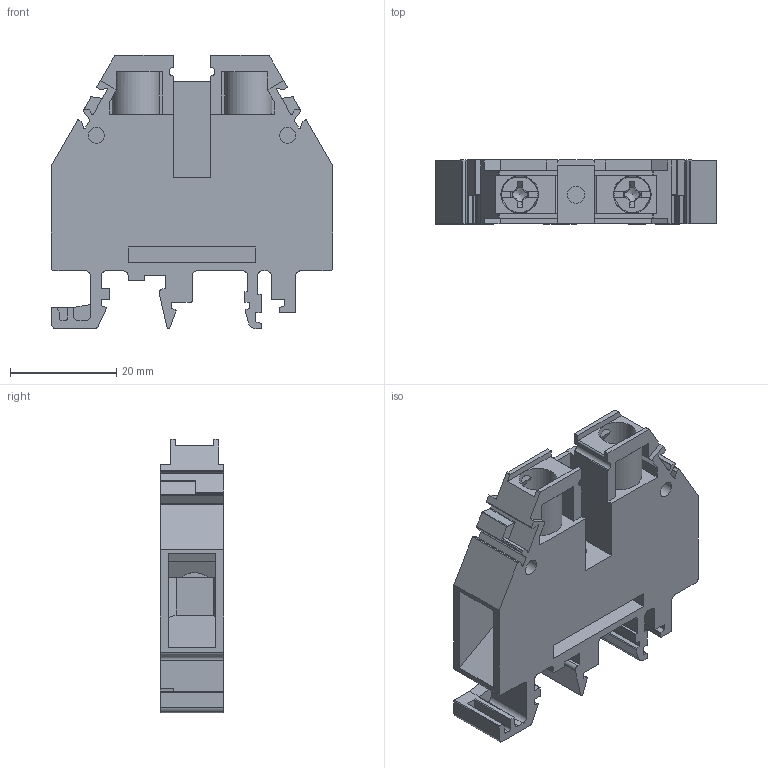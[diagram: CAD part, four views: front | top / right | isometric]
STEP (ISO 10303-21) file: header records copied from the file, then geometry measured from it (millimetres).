
FILE_DESCRIPTION(/* description */ ('Unknown'),/* implementation_level */ '2;1');
FILE_NAME(/* name */ 'RSA 16A',/* time_stamp */ '2021-03-08T13:46:27+01:00',/* author */ ('Unknown'),/* organization */ ('Unknown'),/* preprocessor_version */ 'ST-DEVELOPER v16.7',/* originating_system */ 'Solid Edge',/* authorisation */ 'Unknown');
FILE_SCHEMA (('AUTOMOTIVE_DESIGN {1 0 10303 214 3 1 1}'));
Length unit declared in the file: millimetre
Products named in the file (1): RSA 16A
Bounding box: 53 x 12 x 51.5 mm (x, y, z)
Volume: 17372.3 mm3; surface area: 10850.1 mm2
Topology: 1 solids, 1 shells, 408 faces, 1111 edges, 724 vertices
Faces by surface type: plane 301, cylinder 99, cone 6, torus 2
Full cylindrical faces by diameter (mm): 3 x4, 3.242 x1, 5 x4, 5.2 x2, 7.1 x2
Entity records: 15470 total; most frequent: CARTESIAN_POINT 2225, ORIENTED_EDGE 2156, DIRECTION 2140, EDGE_CURVE 1078, LINE 818, VECTOR 818, VERTEX_POINT 714, AXIS2_PLACEMENT_3D 661
